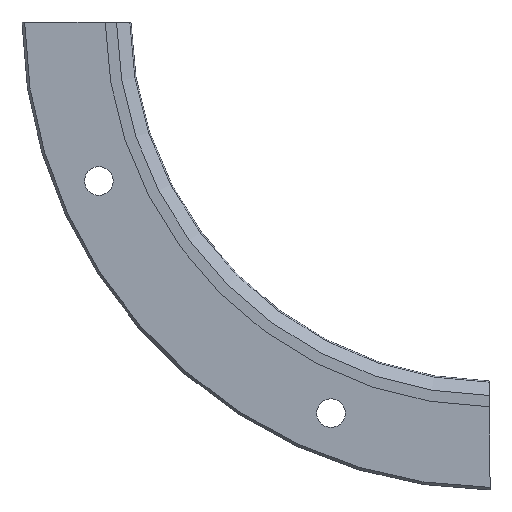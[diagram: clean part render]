
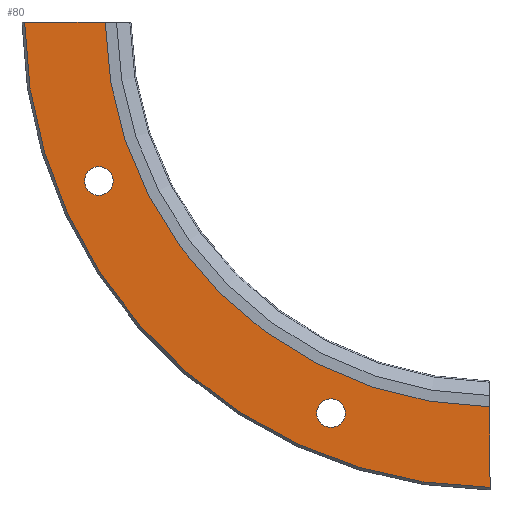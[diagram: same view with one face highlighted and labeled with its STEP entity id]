
A CAD part, front view. The second image highlights one B-rep face of the part: STEP entity #80.
In plain terms, the highlighted planar face has unit normal (0, -1, 0).
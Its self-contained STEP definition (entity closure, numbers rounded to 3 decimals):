
#80=ADVANCED_FACE('',(#111,#112,#113),#114,.T.);
#111=FACE_OUTER_BOUND('',#167,.T.);
#112=FACE_BOUND('',#168,.T.);
#113=FACE_BOUND('',#169,.T.);
#114=PLANE('',#170);
#167=EDGE_LOOP('',(#248,#249,#250,#251));
#168=EDGE_LOOP('',(#252,#253));
#169=EDGE_LOOP('',(#254,#255));
#170=AXIS2_PLACEMENT_3D('',#256,#257,#258);
#248=ORIENTED_EDGE('',*,*,#434,.F.);
#249=ORIENTED_EDGE('',*,*,#435,.T.);
#250=ORIENTED_EDGE('',*,*,#436,.F.);
#251=ORIENTED_EDGE('',*,*,#437,.F.);
#252=ORIENTED_EDGE('',*,*,#438,.T.);
#253=ORIENTED_EDGE('',*,*,#430,.T.);
#254=ORIENTED_EDGE('',*,*,#439,.T.);
#255=ORIENTED_EDGE('',*,*,#422,.T.);
#256=CARTESIAN_POINT('',(-90.5,-9.825,0.0));
#257=DIRECTION('',(0.0,-1.0,0.0));
#258=DIRECTION('',(0.0,0.0,-1.0));
#422=EDGE_CURVE('',#493,#494,#495,.T.);
#430=EDGE_CURVE('',#509,#510,#511,.T.);
#434=EDGE_CURVE('',#517,#518,#519,.T.);
#435=EDGE_CURVE('',#517,#520,#521,.T.);
#436=EDGE_CURVE('',#522,#520,#523,.T.);
#437=EDGE_CURVE('',#518,#522,#524,.T.);
#438=EDGE_CURVE('',#510,#509,#525,.T.);
#439=EDGE_CURVE('',#494,#493,#526,.T.);
#493=VERTEX_POINT('',#610);
#494=VERTEX_POINT('',#611);
#495=CIRCLE('',#612,2.75);
#509=VERTEX_POINT('',#630);
#510=VERTEX_POINT('',#631);
#511=CIRCLE('',#632,2.75);
#517=VERTEX_POINT('',#640);
#518=VERTEX_POINT('',#641);
#519=LINE('',#642,#643);
#520=VERTEX_POINT('',#644);
#521=CIRCLE('',#645,75.0);
#522=VERTEX_POINT('',#646);
#523=LINE('',#647,#648);
#524=CIRCLE('',#649,90.5);
#525=CIRCLE('',#650,2.75);
#526=CIRCLE('',#651,2.75);
#610=CARTESIAN_POINT('',(-31.571,-9.825,-78.97));
#611=CARTESIAN_POINT('',(-31.571,-9.825,-73.47));
#612=AXIS2_PLACEMENT_3D('',#767,#768,#769);
#630=CARTESIAN_POINT('',(-76.22,-9.825,-34.321));
#631=CARTESIAN_POINT('',(-76.22,-9.825,-28.821));
#632=AXIS2_PLACEMENT_3D('',#783,#784,#785);
#640=CARTESIAN_POINT('',(-1.,-9.825,-74.993));
#641=CARTESIAN_POINT('',(-1.,-9.825,-90.494));
#642=CARTESIAN_POINT('',(-1.,-9.825,-999.999));
#643=VECTOR('',#791,1000.0);
#644=CARTESIAN_POINT('',(-74.993,-9.825,-1.));
#645=AXIS2_PLACEMENT_3D('',#792,#793,#794);
#646=CARTESIAN_POINT('',(-90.494,-9.825,-1.));
#647=CARTESIAN_POINT('',(-999.999,-9.825,-1.));
#648=VECTOR('',#795,1000.0);
#649=AXIS2_PLACEMENT_3D('',#796,#797,#798);
#650=AXIS2_PLACEMENT_3D('',#799,#800,#801);
#651=AXIS2_PLACEMENT_3D('',#802,#803,#804);
#767=CARTESIAN_POINT('',(-31.571,-9.825,-76.22));
#768=DIRECTION('',(-0.0,1.0,0.0));
#769=DIRECTION('',(0.0,0.0,1.0));
#783=CARTESIAN_POINT('',(-76.22,-9.825,-31.571));
#784=DIRECTION('',(-0.0,1.0,0.0));
#785=DIRECTION('',(0.0,0.0,1.0));
#791=DIRECTION('',(0.,-0.0,-1.0));
#792=CARTESIAN_POINT('',(0.0,-9.825,0.0));
#793=DIRECTION('',(-0.0,1.0,0.0));
#794=DIRECTION('',(0.0,0.0,1.0));
#795=DIRECTION('',(1.0,0.0,0.0));
#796=CARTESIAN_POINT('',(0.0,-9.825,0.0));
#797=DIRECTION('',(-0.0,1.0,0.0));
#798=DIRECTION('',(0.0,0.0,1.0));
#799=CARTESIAN_POINT('',(-76.22,-9.825,-31.571));
#800=DIRECTION('',(-0.0,1.0,0.0));
#801=DIRECTION('',(0.0,0.0,1.0));
#802=CARTESIAN_POINT('',(-31.571,-9.825,-76.22));
#803=DIRECTION('',(-0.0,1.0,0.0));
#804=DIRECTION('',(0.0,0.0,1.0));
